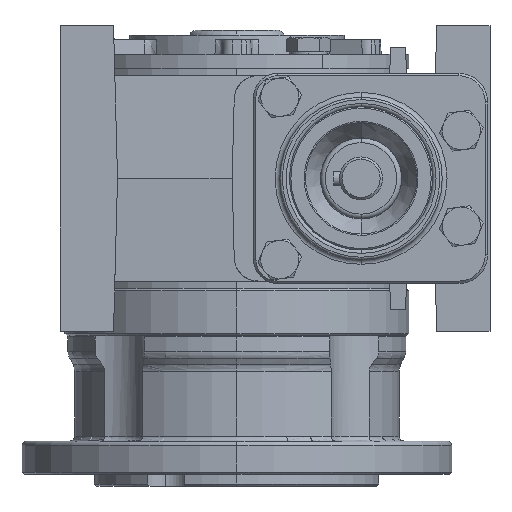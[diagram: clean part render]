
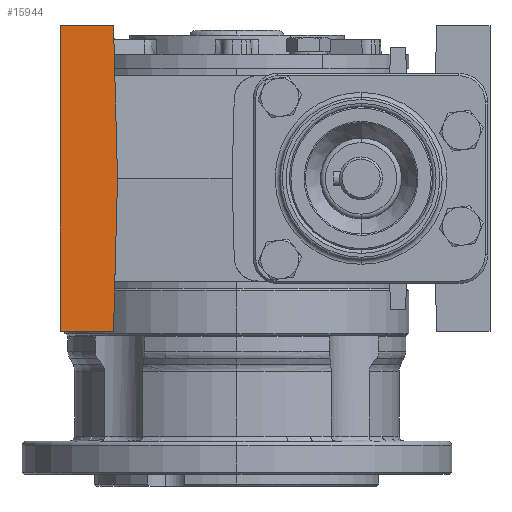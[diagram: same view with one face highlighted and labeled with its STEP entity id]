
A CAD part, left-side view. The second image highlights one B-rep face of the part: STEP entity #15944.
In plain terms, the highlighted planar face has unit normal (-1, 0, 0).
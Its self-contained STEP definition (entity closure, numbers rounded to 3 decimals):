
#149 = CARTESIAN_POINT ( 'NONE',  ( -37., 25.838, -32. ) ) ;
#391 = VERTEX_POINT ( 'NONE', #1184 ) ;
#463 = CARTESIAN_POINT ( 'NONE',  ( -37., 25., 0. ) ) ;
#1184 = CARTESIAN_POINT ( 'NONE',  ( -37., 25.838, 32. ) ) ;
#1234 = EDGE_CURVE ( 'NONE', #14612, #391, #13547, .T. ) ;
#1543 = ORIENTED_EDGE ( 'NONE', *, *, #24418, .T. ) ;
#1803 = VECTOR ( 'NONE', #4682, 1000. ) ;
#2134 = LINE ( 'NONE', #17738, #23791 ) ;
#4242 = PLANE ( 'NONE',  #20580 ) ;
#4682 = DIRECTION ( 'NONE',  ( 0., -1., 0. ) ) ;
#5196 = VECTOR ( 'NONE', #8108, 1000. ) ;
#5288 = DIRECTION ( 'NONE',  ( 0., -0.026, -1. ) ) ;
#6189 = LINE ( 'NONE', #7399, #22322 ) ;
#6249 = DIRECTION ( 'NONE',  ( 0., 0., -1. ) ) ;
#6323 = DIRECTION ( 'NONE',  ( 1., 0., 0. ) ) ;
#6490 = VECTOR ( 'NONE', #6249, 1000. ) ;
#7399 = CARTESIAN_POINT ( 'NONE',  ( -37., 25., 0. ) ) ;
#7682 = EDGE_CURVE ( 'NONE', #11260, #26825, #11427, .T. ) ;
#8108 = DIRECTION ( 'NONE',  ( 0., -1., 0. ) ) ;
#8221 = EDGE_LOOP ( 'NONE', ( #25096, #21545, #17107, #1543, #9444 ) ) ;
#8940 = FACE_OUTER_BOUND ( 'NONE', #8221, .T. ) ;
#9444 = ORIENTED_EDGE ( 'NONE', *, *, #7682, .T. ) ;
#11260 = VERTEX_POINT ( 'NONE', #24260 ) ;
#11427 = LINE ( 'NONE', #24968, #5196 ) ;
#13547 = LINE ( 'NONE', #15123, #1803 ) ;
#13829 = CARTESIAN_POINT ( 'NONE',  ( -37., 37., 32. ) ) ;
#13975 = VERTEX_POINT ( 'NONE', #463 ) ;
#14547 = EDGE_CURVE ( 'NONE', #26825, #13975, #2134, .T. ) ;
#14612 = VERTEX_POINT ( 'NONE', #13829 ) ;
#15123 = CARTESIAN_POINT ( 'NONE',  ( -37., 37., 32. ) ) ;
#15944 = ADVANCED_FACE ( 'NONE', ( #8940 ), #4242, .F. ) ;
#17107 = ORIENTED_EDGE ( 'NONE', *, *, #1234, .F. ) ;
#17706 = LINE ( 'NONE', #20978, #6490 ) ;
#17738 = CARTESIAN_POINT ( 'NONE',  ( -37., 25., 0. ) ) ;
#18783 = EDGE_CURVE ( 'NONE', #391, #13975, #6189, .T. ) ;
#18841 = CARTESIAN_POINT ( 'NONE',  ( -37., 37., 32. ) ) ;
#19935 = DIRECTION ( 'NONE',  ( 0., -0.026, 1. ) ) ;
#20580 = AXIS2_PLACEMENT_3D ( 'NONE', #18841, #6323, #21037 ) ;
#20978 = CARTESIAN_POINT ( 'NONE',  ( -37., 37., 32. ) ) ;
#21037 = DIRECTION ( 'NONE',  ( 0., 1., 0. ) ) ;
#21545 = ORIENTED_EDGE ( 'NONE', *, *, #18783, .F. ) ;
#22322 = VECTOR ( 'NONE', #5288, 1000. ) ;
#23791 = VECTOR ( 'NONE', #19935, 1000. ) ;
#24260 = CARTESIAN_POINT ( 'NONE',  ( -37., 37., -32. ) ) ;
#24418 = EDGE_CURVE ( 'NONE', #14612, #11260, #17706, .T. ) ;
#24968 = CARTESIAN_POINT ( 'NONE',  ( -37., 37., -32. ) ) ;
#25096 = ORIENTED_EDGE ( 'NONE', *, *, #14547, .T. ) ;
#26825 = VERTEX_POINT ( 'NONE', #149 ) ;
